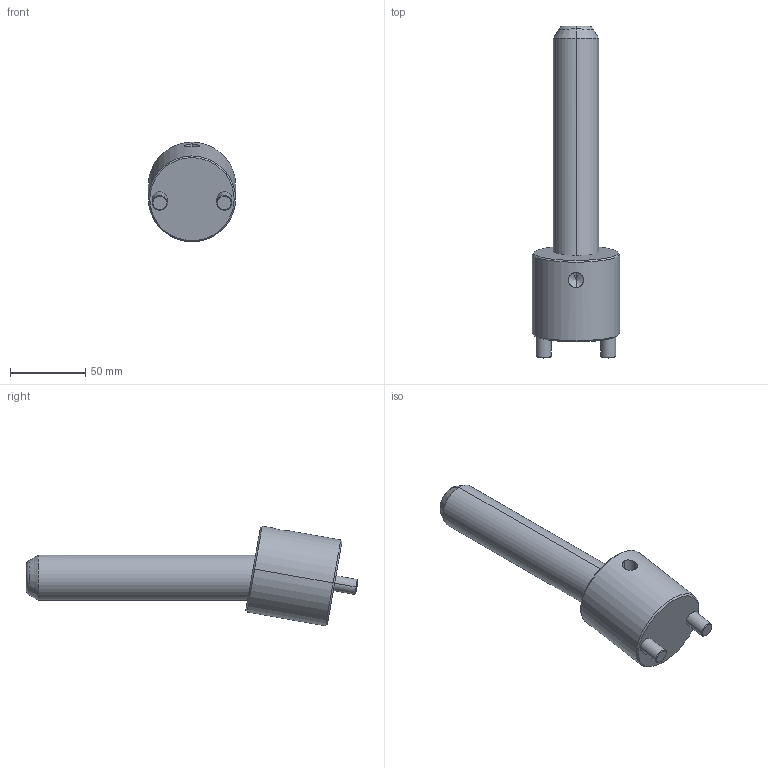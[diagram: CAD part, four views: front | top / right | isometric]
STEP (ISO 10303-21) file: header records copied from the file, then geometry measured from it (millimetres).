
FILE_DESCRIPTION(('CATIA V5 STEP Exchange'),'2;1');
FILE_NAME('C:\Users\Raffaele\Desktop\3D BOLEX\3D FILES CF BOLEX\19-INCLINED ASSEMBLY REF_CI\CI1030150.stp','2019-06-21T13:59:17+00:00',('none'),('none'),'CATIA Version 5 Release 20 GA (IN-10)','CATIA V5 STEP AP203','none');
FILE_SCHEMA(('CONFIG_CONTROL_DESIGN'));
Length unit declared in the file: millimetre
Products named in the file (1): CI1030150
Assembly tree (2 placements, depth 2):
  CI1030150
    #58
    #584
Bounding box: 58 x 220.76 x 66.32 mm (x, y, z)
Volume: 249636.7 mm3; surface area: 40265.2 mm2
Topology: 2 solids, 2 shells, 39 faces, 82 edges, 47 vertices
Faces by surface type: cone 14, cylinder 14, plane 7, torus 4
Entity records: 1539 total; most frequent: CARTESIAN_POINT 676, ORIENTED_EDGE 160, DIRECTION 147, EDGE_CURVE 80, AXIS2_PLACEMENT_3D 74, VERTEX_POINT 47, EDGE_LOOP 43, ADVANCED_FACE 39
